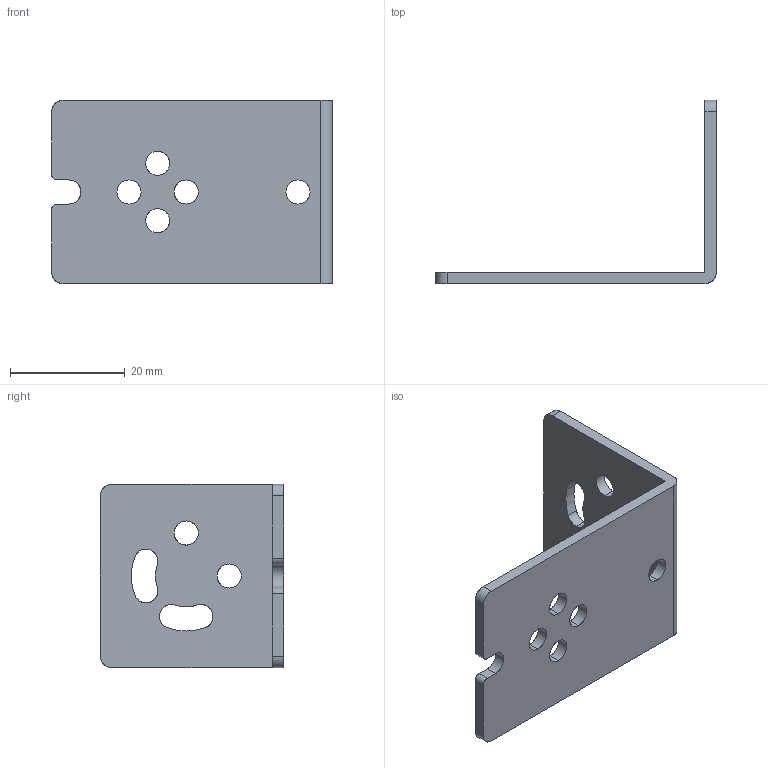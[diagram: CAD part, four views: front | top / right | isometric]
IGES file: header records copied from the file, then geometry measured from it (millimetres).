
Start section: SolidWorks IGES file using analytic representation for surfaces
Bounding box: 49 x 32 x 32 mm (x, y, z)
Surface area: 5374.3 mm2 (no closed solid volume)
Topology: 0 solids, 0 shells, 44 faces, 930 edges, 930 vertices
Faces by surface type: revolution 33, bspline 11
